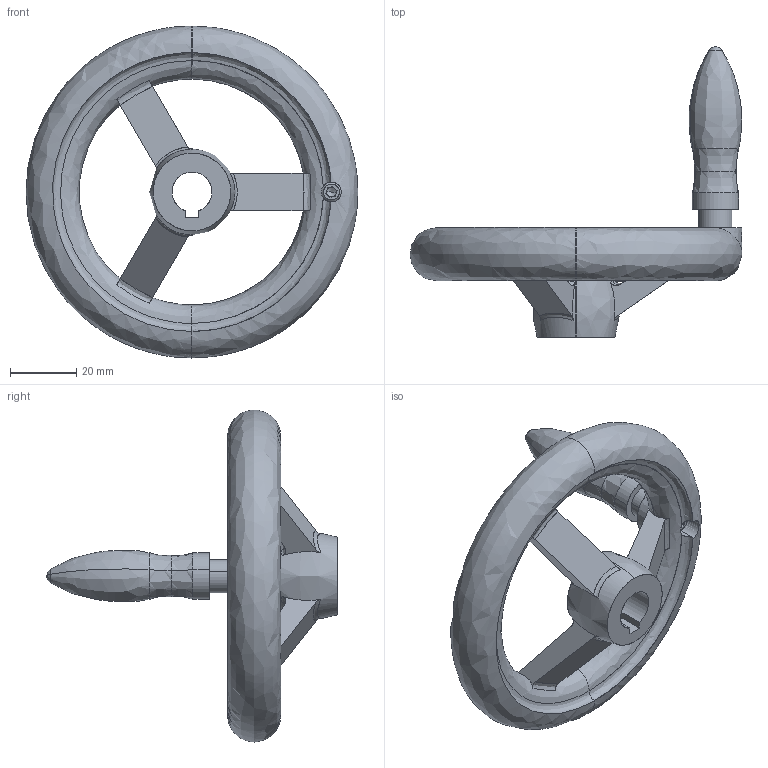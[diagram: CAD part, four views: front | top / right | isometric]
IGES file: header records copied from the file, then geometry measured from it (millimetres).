
Start section: SolidWorks IGES file using analytic representation for surfaces
Global section: file name: C:\Users\IanO\Desktop\Temp File\Process pending\77120_v2\77120_v2_20171108_IGES\77120.W0306.igs; native system: SolidWorks 2017; preprocessor: SolidWorks 2017; author: IanO; date: 171108.084505; units: millimetre
Bounding box: 100 x 87.5 x 100 mm (x, y, z)
Surface area: 23269.3 mm2 (no closed solid volume)
Topology: 0 solids, 0 shells, 148 faces, 1767 edges, 1760 vertices
Faces by surface type: bspline 83, revolution 65
